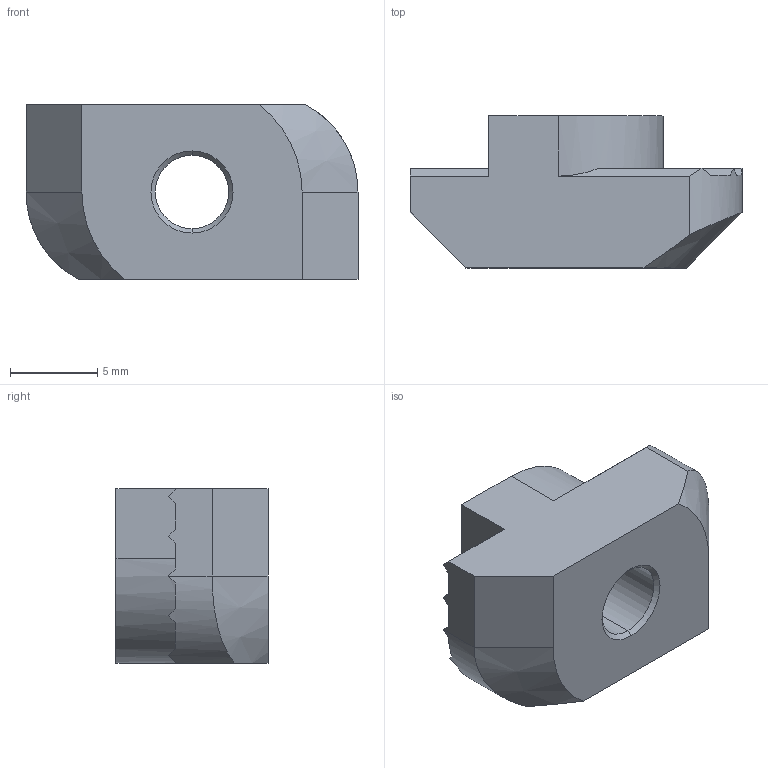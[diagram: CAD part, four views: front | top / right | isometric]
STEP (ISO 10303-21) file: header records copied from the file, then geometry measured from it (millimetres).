
FILE_DESCRIPTION (( 'STEP AP214' ), '1' );
FILE_NAME ('SNSD.30.51.53. Ò-Ãàéêà Ì5, ïàç 10(D44).STEP', '2014-12-02T07:55:50', ( 'XTreme.ws' ), ( 'XTreme.ws' ), 'SwSTEP 2.0', 'SolidWorks 2014', '' );
FILE_SCHEMA (( 'AUTOMOTIVE_DESIGN' ));
Length unit declared in the file: millimetre
Products named in the file (1): SNSD.30.51.53. Ò-Ãàéêà Ì5, ïàç 10(D44)
Bounding box: 19 x 8.7 x 10 mm (x, y, z)
Volume: 1040.4 mm3; surface area: 812.5 mm2
Topology: 1 solids, 1 shells, 50 faces, 136 edges, 88 vertices
Faces by surface type: plane 38, cone 6, cylinder 6
Entity records: 1648 total; most frequent: CARTESIAN_POINT 379, ORIENTED_EDGE 272, DIRECTION 234, EDGE_CURVE 136, LINE 88, VERTEX_POINT 88, VECTOR 88, AXIS2_PLACEMENT_3D 73
